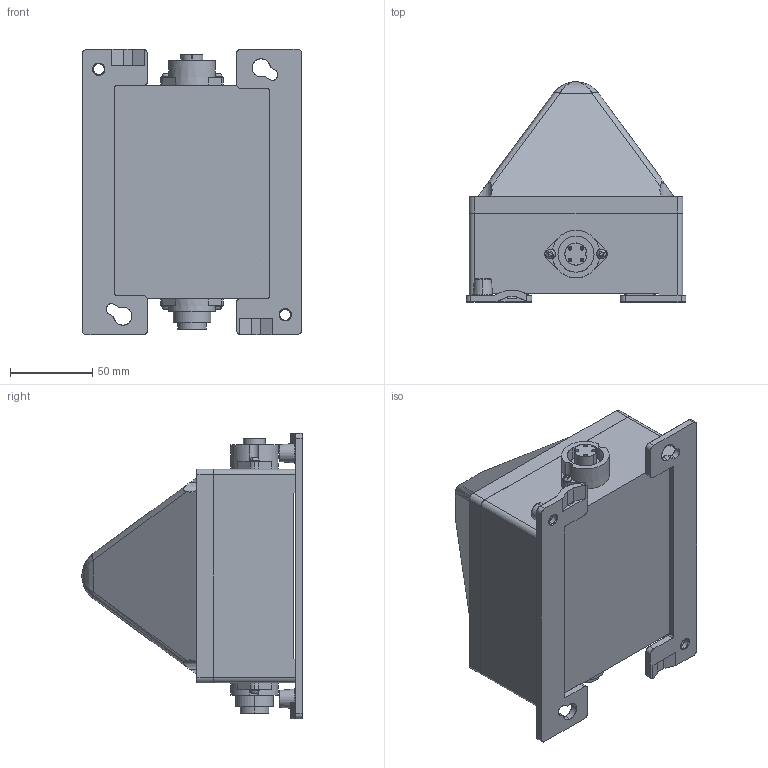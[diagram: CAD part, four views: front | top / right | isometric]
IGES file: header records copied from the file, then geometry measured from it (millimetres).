
Start section: SolidWorks IGES file using analytic representation for surfaces
Global section: file name: L:\3D Volumenmodelle\Quadro\Quadro-R-ST\Quadro R-ST-30029-001-1.IGS; native system: SolidWorks 2011; preprocessor: SolidWorks 2011; author: MMark; date: 110610.151942; units: millimetre
Bounding box: 133.9 x 134 x 173.9 mm (x, y, z)
Surface area: 104756.8 mm2 (no closed solid volume)
Topology: 0 solids, 0 shells, 406 faces, 4634 edges, 4630 vertices
Faces by surface type: bspline 241, revolution 165
